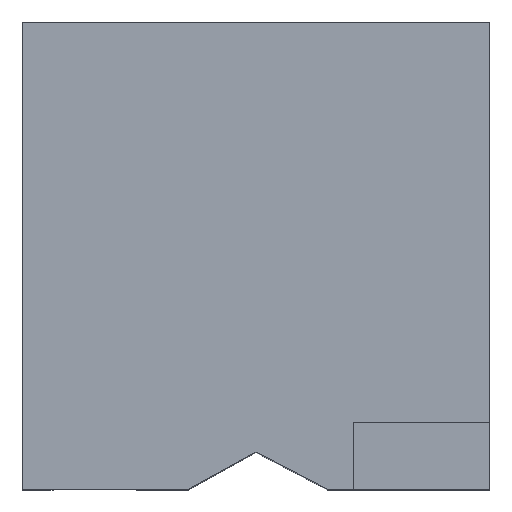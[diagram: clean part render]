
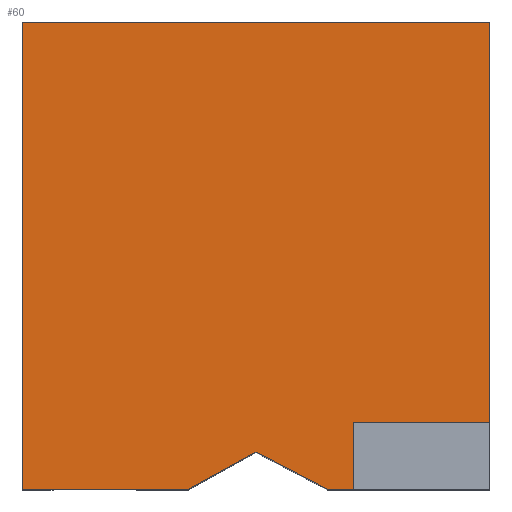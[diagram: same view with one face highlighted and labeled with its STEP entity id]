
A CAD part, top view. The second image highlights one B-rep face of the part: STEP entity #60.
In plain terms, the highlighted planar face has unit normal (0, 0, 1).
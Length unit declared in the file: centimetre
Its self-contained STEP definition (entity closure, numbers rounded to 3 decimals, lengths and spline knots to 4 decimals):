
#3 = EDGE_CURVE ( 'NONE', #483, #51, #540, .T. ) ;
#14 = CARTESIAN_POINT ( 'NONE',  ( 708.5126, 0., 1000. ) ) ;
#21 = LINE ( 'NONE', #583, #85 ) ;
#36 = CARTESIAN_POINT ( 'NONE',  ( 1000., 143.4541, 1000. ) ) ;
#51 = VERTEX_POINT ( 'NONE', #731 ) ;
#60 = ADVANCED_FACE ( 'NONE', ( #650 ), #481, .T. ) ;
#85 = VECTOR ( 'NONE', #409, 100. ) ;
#141 = CARTESIAN_POINT ( 'NONE',  ( 0., 0., 1000. ) ) ;
#151 = DIRECTION ( 'NONE',  ( -1., 0., 0. ) ) ;
#153 = DIRECTION ( 'NONE',  ( 1., 0., 0. ) ) ;
#176 = VECTOR ( 'NONE', #250, 100. ) ;
#226 = VERTEX_POINT ( 'NONE', #289 ) ;
#238 = EDGE_CURVE ( 'NONE', #51, #875, #800, .T. ) ;
#241 = CARTESIAN_POINT ( 'NONE',  ( 355.1814, 0., 1000. ) ) ;
#250 = DIRECTION ( 'NONE',  ( 0.877, 0.481, 0. ) ) ;
#271 = CARTESIAN_POINT ( 'NONE',  ( 500., 79.4383, 1000. ) ) ;
#289 = CARTESIAN_POINT ( 'NONE',  ( 0., 1000., 1000. ) ) ;
#293 = VERTEX_POINT ( 'NONE', #36 ) ;
#299 = CARTESIAN_POINT ( 'NONE',  ( 0., 0., 1000. ) ) ;
#304 = EDGE_CURVE ( 'NONE', #480, #1207, #419, .T. ) ;
#307 = VECTOR ( 'NONE', #153, 100. ) ;
#314 = EDGE_CURVE ( 'NONE', #293, #603, #783, .T. ) ;
#343 = AXIS2_PLACEMENT_3D ( 'NONE', #299, #394, #465 ) ;
#383 = VECTOR ( 'NONE', #1199, 100. ) ;
#389 = ORIENTED_EDGE ( 'NONE', *, *, #314, .T. ) ;
#394 = DIRECTION ( 'NONE',  ( 0., 0., 1. ) ) ;
#402 = ORIENTED_EDGE ( 'NONE', *, *, #531, .F. ) ;
#407 = CARTESIAN_POINT ( 'NONE',  ( 0., 1000., 1000. ) ) ;
#409 = DIRECTION ( 'NONE',  ( -1., 0., 0. ) ) ;
#419 = LINE ( 'NONE', #141, #307 ) ;
#431 = LINE ( 'NONE', #407, #913 ) ;
#462 = CARTESIAN_POINT ( 'NONE',  ( 708.5126, 0., 1000. ) ) ;
#465 = DIRECTION ( 'NONE',  ( 1., 0., 0. ) ) ;
#468 = EDGE_CURVE ( 'NONE', #603, #226, #431, .T. ) ;
#479 = DIRECTION ( 'NONE',  ( 0., -1., 0. ) ) ;
#480 = VERTEX_POINT ( 'NONE', #522 ) ;
#481 = PLANE ( 'NONE',  #343 ) ;
#483 = VERTEX_POINT ( 'NONE', #772 ) ;
#488 = CARTESIAN_POINT ( 'NONE',  ( 0., 1000., 1000. ) ) ;
#502 = ORIENTED_EDGE ( 'NONE', *, *, #468, .T. ) ;
#509 = EDGE_CURVE ( 'NONE', #226, #483, #966, .T. ) ;
#522 = CARTESIAN_POINT ( 'NONE',  ( 652.5304, 0., 1000. ) ) ;
#531 = EDGE_CURVE ( 'NONE', #1052, #1207, #941, .T. ) ;
#540 = LINE ( 'NONE', #825, #383 ) ;
#563 = EDGE_CURVE ( 'NONE', #875, #480, #1072, .T. ) ;
#583 = CARTESIAN_POINT ( 'NONE',  ( 708.5126, 143.4541, 1000. ) ) ;
#603 = VERTEX_POINT ( 'NONE', #1057 ) ;
#615 = EDGE_CURVE ( 'NONE', #293, #1052, #21, .T. ) ;
#623 = VECTOR ( 'NONE', #479, 100. ) ;
#650 = FACE_OUTER_BOUND ( 'NONE', #887, .T. ) ;
#731 = CARTESIAN_POINT ( 'NONE',  ( 355.1814, 0., 1000. ) ) ;
#765 = VECTOR ( 'NONE', #776, 100. ) ;
#770 = CARTESIAN_POINT ( 'NONE',  ( 708.5126, 143.4541, 1000. ) ) ;
#772 = CARTESIAN_POINT ( 'NONE',  ( 0., 0., 1000. ) ) ;
#775 = ORIENTED_EDGE ( 'NONE', *, *, #304, .T. ) ;
#776 = DIRECTION ( 'NONE',  ( 0., 1., 0. ) ) ;
#780 = ORIENTED_EDGE ( 'NONE', *, *, #563, .T. ) ;
#783 = LINE ( 'NONE', #1153, #765 ) ;
#799 = DIRECTION ( 'NONE',  ( 0., -1., 0. ) ) ;
#800 = LINE ( 'NONE', #241, #176 ) ;
#825 = CARTESIAN_POINT ( 'NONE',  ( 0., 0., 1000. ) ) ;
#875 = VERTEX_POINT ( 'NONE', #271 ) ;
#887 = EDGE_LOOP ( 'NONE', ( #402, #1165, #389, #502, #888, #1047, #1089, #780, #775 ) ) ;
#888 = ORIENTED_EDGE ( 'NONE', *, *, #509, .T. ) ;
#913 = VECTOR ( 'NONE', #151, 100. ) ;
#941 = LINE ( 'NONE', #14, #623 ) ;
#966 = LINE ( 'NONE', #488, #1156 ) ;
#1047 = ORIENTED_EDGE ( 'NONE', *, *, #3, .T. ) ;
#1052 = VERTEX_POINT ( 'NONE', #770 ) ;
#1057 = CARTESIAN_POINT ( 'NONE',  ( 1000., 1000., 1000. ) ) ;
#1072 = LINE ( 'NONE', #1195, #1115 ) ;
#1084 = DIRECTION ( 'NONE',  ( 0.887, -0.462, 0. ) ) ;
#1089 = ORIENTED_EDGE ( 'NONE', *, *, #238, .T. ) ;
#1115 = VECTOR ( 'NONE', #1084, 100. ) ;
#1153 = CARTESIAN_POINT ( 'NONE',  ( 1000., 1000., 1000. ) ) ;
#1156 = VECTOR ( 'NONE', #799, 100. ) ;
#1165 = ORIENTED_EDGE ( 'NONE', *, *, #615, .F. ) ;
#1195 = CARTESIAN_POINT ( 'NONE',  ( 500., 79.4383, 1000. ) ) ;
#1199 = DIRECTION ( 'NONE',  ( 1., 0., 0. ) ) ;
#1207 = VERTEX_POINT ( 'NONE', #462 ) ;
